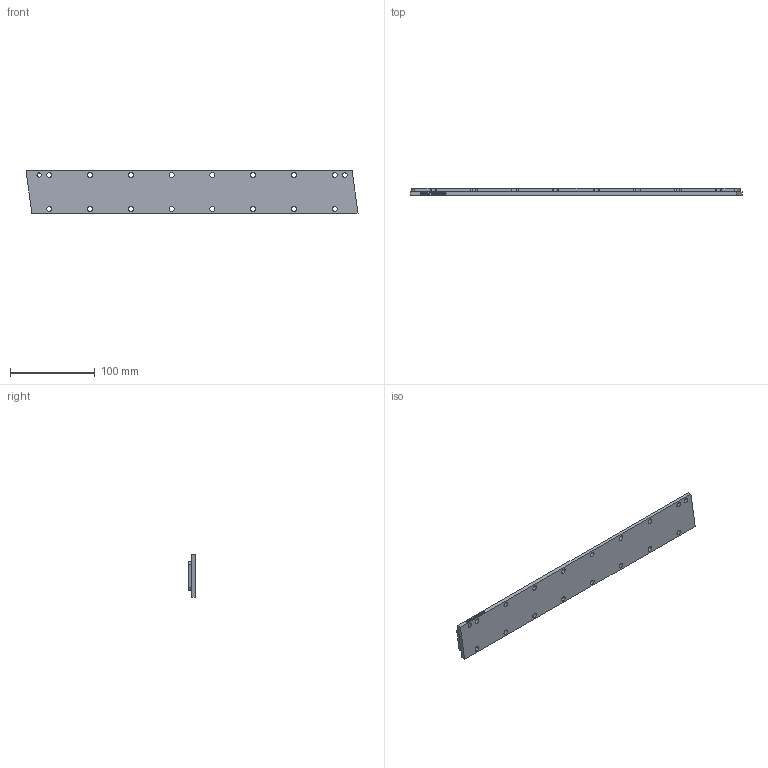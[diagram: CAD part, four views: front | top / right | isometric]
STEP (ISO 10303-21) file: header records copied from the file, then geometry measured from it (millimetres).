
FILE_DESCRIPTION (( 'STEP AP214' ), '1' );
FILE_NAME ('Cast T magnet plate TMX 384.STEP', '2023-03-30T12:47:21', ( '' ), ( '' ), 'SwSTEP 2.0', 'SolidWorks 2020', '' );
FILE_SCHEMA (( 'AUTOMOTIVE_DESIGN' ));
Length unit declared in the file: millimetre
Products named in the file (4): Glued T magnet plate TMX 384; ResinTMX384 rectangle_Resin; closing plate TMX 384_with engraving; Cast T magnet plate TMX 384
Assembly tree (3 placements, depth 3):
  Cast T magnet plate TMX 384
    Glued T magnet plate TMX 384
      closing plate TMX 384_with engraving
    ResinTMX384 rectangle_Resin
Bounding box: 390.88 x 8.2 x 50 mm (x, y, z)
Volume: 130619.6 mm3; surface area: 71029 mm2
Topology: 2 solids, 2 shells, 372 faces, 1038 edges, 692 vertices
Faces by surface type: plane 143, bspline 133, cylinder 96
Entity records: 19012 total; most frequent: CARTESIAN_POINT 9970, ORIENTED_EDGE 2076, DIRECTION 1456, EDGE_CURVE 1038, VERTEX_POINT 692, LINE 580, VECTOR 580, AXIS2_PLACEMENT_3D 438
